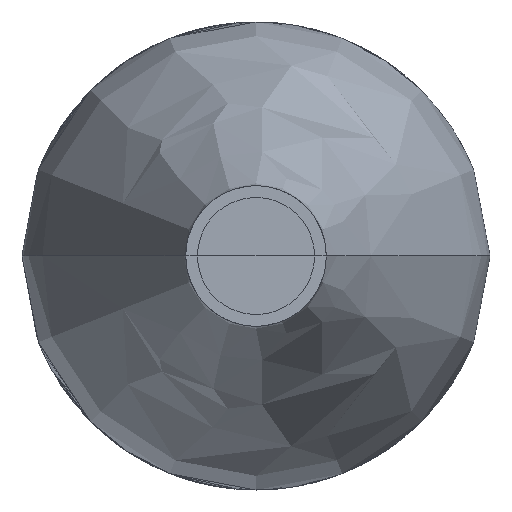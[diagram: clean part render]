
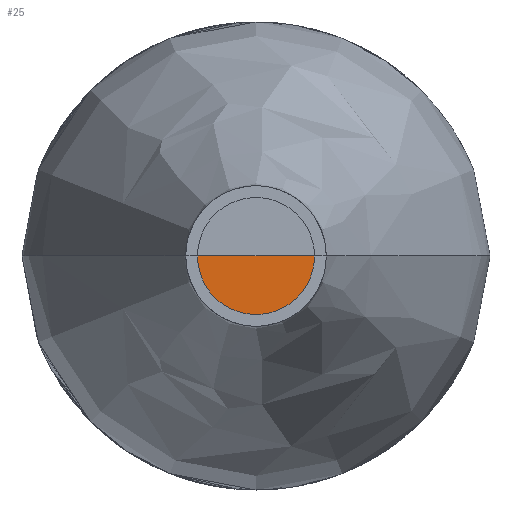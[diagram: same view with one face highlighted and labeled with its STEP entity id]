
A CAD part, left-side view. The second image highlights one B-rep face of the part: STEP entity #25.
In plain terms, the highlighted free-form (B-spline) face has degree [1, 2] with [2, 9] control points.
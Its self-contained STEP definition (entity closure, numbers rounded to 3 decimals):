
#25=ADVANCED_FACE('',(#43),#471,.T.);
#43=FACE_OUTER_BOUND('',#61,.T.);
#61=EDGE_LOOP('',(#81,#82,#83));
#81=ORIENTED_EDGE('',*,*,#403,.T.);
#82=ORIENTED_EDGE('',*,*,#404,.T.);
#83=ORIENTED_EDGE('',*,*,#405,.T.);
#149=PCURVE('',#471,#217);
#150=PCURVE('',#471,#218);
#151=PCURVE('',#471,#219);
#183=PCURVE('',#480,#251);
#185=PCURVE('',#480,#253);
#187=PCURVE('',#481,#255);
#217=DEFINITIONAL_REPRESENTATION('',(#288),#1449);
#218=DEFINITIONAL_REPRESENTATION('',(#289),#1449);
#219=DEFINITIONAL_REPRESENTATION('',(#291),#1449);
#251=DEFINITIONAL_REPRESENTATION('',(#335),#1449);
#253=DEFINITIONAL_REPRESENTATION('',(#337),#1449);
#255=DEFINITIONAL_REPRESENTATION('',(#339),#1449);
#287=B_SPLINE_CURVE_WITH_KNOTS('',1,(#1177,#1178),.UNSPECIFIED.,.F.,.F.,
(2,2),(0.,10.),.UNSPECIFIED.);
#288=B_SPLINE_CURVE_WITH_KNOTS('',1,(#1179,#1180),.UNSPECIFIED.,.F.,.F.,
(2,2),(0.,10.),.UNSPECIFIED.);
#289=B_SPLINE_CURVE_WITH_KNOTS('',1,(#1186,#1187),.UNSPECIFIED.,.F.,.F.,
(2,2),(0.,3.142),.UNSPECIFIED.);
#290=B_SPLINE_CURVE_WITH_KNOTS('',1,(#1188,#1189),.UNSPECIFIED.,.F.,.F.,
(2,2),(-10.,0.),.UNSPECIFIED.);
#291=B_SPLINE_CURVE_WITH_KNOTS('',1,(#1190,#1191),.UNSPECIFIED.,.F.,.F.,
(2,2),(-10.,0.),.UNSPECIFIED.);
#335=B_SPLINE_CURVE_WITH_KNOTS('',1,(#1366,#1367),.UNSPECIFIED.,.F.,.F.,
(2,2),(-10.,0.),.UNSPECIFIED.);
#337=B_SPLINE_CURVE_WITH_KNOTS('',1,(#1370,#1371),.UNSPECIFIED.,.F.,.F.,
(2,2),(0.,10.),.UNSPECIFIED.);
#339=B_SPLINE_CURVE_WITH_KNOTS('',1,(#1374,#1375),.UNSPECIFIED.,.F.,.F.,
(2,2),(0.,3.142),.UNSPECIFIED.);
#369=SURFACE_CURVE('',#287,(#149,#185),.PCURVE_S1.);
#370=SURFACE_CURVE('',#435,(#150,#187),.PCURVE_S1.);
#371=SURFACE_CURVE('',#290,(#151,#183),.PCURVE_S1.);
#403=EDGE_CURVE('',#452,#455,#369,.T.);
#404=EDGE_CURVE('',#455,#463,#370,.T.);
#405=EDGE_CURVE('',#463,#452,#371,.T.);
#435=(
BOUNDED_CURVE()
B_SPLINE_CURVE(2,(#1181,#1182,#1183,#1184,#1185),.UNSPECIFIED.,.F.,.F.)
B_SPLINE_CURVE_WITH_KNOTS((3,2,3),(0.,1.571,3.142),
 .UNSPECIFIED.)
CURVE()
GEOMETRIC_REPRESENTATION_ITEM()
RATIONAL_B_SPLINE_CURVE((1.,0.707,1.,0.707,1.))
REPRESENTATION_ITEM('')
);
#452=VERTEX_POINT('',#1144);
#455=VERTEX_POINT('',#1147);
#463=VERTEX_POINT('',#1155);
#471=(
BOUNDED_SURFACE()
B_SPLINE_SURFACE(1,2,((#532,#533,#534,#535,#536,#537,#538,#539,#540),(#541,
#542,#543,#544,#545,#546,#547,#548,#549)),.UNSPECIFIED.,.F.,.F.,.F.)
B_SPLINE_SURFACE_WITH_KNOTS((2,2),(3,2,2,2,3),(0.,10.),(0.,1.571,
3.142,4.712,6.283),.UNSPECIFIED.)
GEOMETRIC_REPRESENTATION_ITEM()
RATIONAL_B_SPLINE_SURFACE(((1.,0.707,1.,0.707,1.,
0.707,1.,0.707,1.),(1.,0.707,1.,0.707,
1.,0.707,1.,0.707,1.)))
REPRESENTATION_ITEM('')
SURFACE()
);
#480=(
BOUNDED_SURFACE()
B_SPLINE_SURFACE(1,2,((#847,#848,#849,#850,#851,#852,#853,#854,#855),(#856,
#857,#858,#859,#860,#861,#862,#863,#864)),.UNSPECIFIED.,.F.,.F.,.F.)
B_SPLINE_SURFACE_WITH_KNOTS((2,2),(3,2,2,2,3),(0.,10.),(0.,1.571,
3.142,4.712,6.283),.UNSPECIFIED.)
GEOMETRIC_REPRESENTATION_ITEM()
RATIONAL_B_SPLINE_SURFACE(((1.,0.707,1.,0.707,1.,
0.707,1.,0.707,1.),(1.,0.707,1.,0.707,
1.,0.707,1.,0.707,1.)))
REPRESENTATION_ITEM('')
SURFACE()
);
#481=(
BOUNDED_SURFACE()
B_SPLINE_SURFACE(1,2,((#865,#866,#867,#868,#869,#870,#871,#872,#873),(#874,
#875,#876,#877,#878,#879,#880,#881,#882)),.UNSPECIFIED.,.F.,.F.,.F.)
B_SPLINE_SURFACE_WITH_KNOTS((2,2),(3,2,2,2,3),(22.,24.),(0.,1.571,
3.142,4.712,6.283),.UNSPECIFIED.)
GEOMETRIC_REPRESENTATION_ITEM()
RATIONAL_B_SPLINE_SURFACE(((1.,0.707,1.,0.707,1.,
0.707,1.,0.707,1.),(1.,0.707,1.,0.707,
1.,0.707,1.,0.707,1.)))
REPRESENTATION_ITEM('')
SURFACE()
);
#532=CARTESIAN_POINT('',(-590.,418.,68.));
#533=CARTESIAN_POINT('',(-590.,418.,68.));
#534=CARTESIAN_POINT('',(-590.,418.,68.));
#535=CARTESIAN_POINT('',(-590.,418.,68.));
#536=CARTESIAN_POINT('',(-590.,418.,68.));
#537=CARTESIAN_POINT('',(-590.,418.,68.));
#538=CARTESIAN_POINT('',(-590.,418.,68.));
#539=CARTESIAN_POINT('',(-590.,418.,68.));
#540=CARTESIAN_POINT('',(-590.,418.,68.));
#541=CARTESIAN_POINT('',(-590.,428.,68.));
#542=CARTESIAN_POINT('',(-590.,428.,58.));
#543=CARTESIAN_POINT('',(-590.,418.,58.));
#544=CARTESIAN_POINT('',(-590.,408.,58.));
#545=CARTESIAN_POINT('',(-590.,408.,68.));
#546=CARTESIAN_POINT('',(-590.,408.,78.));
#547=CARTESIAN_POINT('',(-590.,418.,78.));
#548=CARTESIAN_POINT('',(-590.,428.,78.));
#549=CARTESIAN_POINT('',(-590.,428.,68.));
#847=CARTESIAN_POINT('',(-590.,418.,68.));
#848=CARTESIAN_POINT('',(-590.,418.,68.));
#849=CARTESIAN_POINT('',(-590.,418.,68.));
#850=CARTESIAN_POINT('',(-590.,418.,68.));
#851=CARTESIAN_POINT('',(-590.,418.,68.));
#852=CARTESIAN_POINT('',(-590.,418.,68.));
#853=CARTESIAN_POINT('',(-590.,418.,68.));
#854=CARTESIAN_POINT('',(-590.,418.,68.));
#855=CARTESIAN_POINT('',(-590.,418.,68.));
#856=CARTESIAN_POINT('',(-590.,428.,68.));
#857=CARTESIAN_POINT('',(-590.,428.,58.));
#858=CARTESIAN_POINT('',(-590.,418.,58.));
#859=CARTESIAN_POINT('',(-590.,408.,58.));
#860=CARTESIAN_POINT('',(-590.,408.,68.));
#861=CARTESIAN_POINT('',(-590.,408.,78.));
#862=CARTESIAN_POINT('',(-590.,418.,78.));
#863=CARTESIAN_POINT('',(-590.,428.,78.));
#864=CARTESIAN_POINT('',(-590.,428.,68.));
#865=CARTESIAN_POINT('',(-590.,430.,68.));
#866=CARTESIAN_POINT('',(-590.,430.,80.));
#867=CARTESIAN_POINT('',(-590.,418.,80.));
#868=CARTESIAN_POINT('',(-590.,406.,80.));
#869=CARTESIAN_POINT('',(-590.,406.,68.));
#870=CARTESIAN_POINT('',(-590.,406.,56.));
#871=CARTESIAN_POINT('',(-590.,418.,56.));
#872=CARTESIAN_POINT('',(-590.,430.,56.));
#873=CARTESIAN_POINT('',(-590.,430.,68.));
#874=CARTESIAN_POINT('',(-590.,428.,68.));
#875=CARTESIAN_POINT('',(-590.,428.,78.));
#876=CARTESIAN_POINT('',(-590.,418.,78.));
#877=CARTESIAN_POINT('',(-590.,408.,78.));
#878=CARTESIAN_POINT('',(-590.,408.,68.));
#879=CARTESIAN_POINT('',(-590.,408.,58.));
#880=CARTESIAN_POINT('',(-590.,418.,58.));
#881=CARTESIAN_POINT('',(-590.,428.,58.));
#882=CARTESIAN_POINT('',(-590.,428.,68.));
#1144=CARTESIAN_POINT('',(-590.,418.,68.));
#1147=CARTESIAN_POINT('',(-590.,428.,68.));
#1155=CARTESIAN_POINT('',(-590.,408.,68.));
#1177=CARTESIAN_POINT('',(-590.,418.,68.));
#1178=CARTESIAN_POINT('',(-590.,428.,68.));
#1179=CARTESIAN_POINT('',(0.,0.));
#1180=CARTESIAN_POINT('',(10.,0.));
#1181=CARTESIAN_POINT('',(-590.,428.,68.));
#1182=CARTESIAN_POINT('',(-590.,428.,58.));
#1183=CARTESIAN_POINT('',(-590.,418.,58.));
#1184=CARTESIAN_POINT('',(-590.,408.,58.));
#1185=CARTESIAN_POINT('',(-590.,408.,68.));
#1186=CARTESIAN_POINT('',(10.,0.));
#1187=CARTESIAN_POINT('',(10.,3.142));
#1188=CARTESIAN_POINT('',(-590.,408.,68.));
#1189=CARTESIAN_POINT('',(-590.,418.,68.));
#1190=CARTESIAN_POINT('',(10.,3.142));
#1191=CARTESIAN_POINT('',(0.,3.142));
#1366=CARTESIAN_POINT('',(10.,3.142));
#1367=CARTESIAN_POINT('',(0.,3.142));
#1370=CARTESIAN_POINT('',(0.,6.283));
#1371=CARTESIAN_POINT('',(10.,6.283));
#1374=CARTESIAN_POINT('',(24.,6.283));
#1375=CARTESIAN_POINT('',(24.,3.142));
#1449=(
GEOMETRIC_REPRESENTATION_CONTEXT(2)
PARAMETRIC_REPRESENTATION_CONTEXT()
REPRESENTATION_CONTEXT('pspace','')
);
